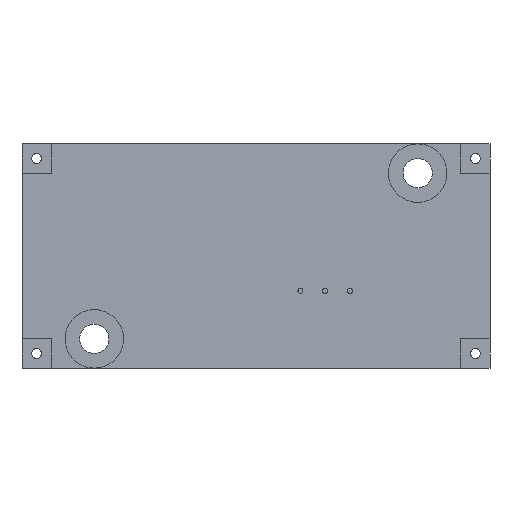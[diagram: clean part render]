
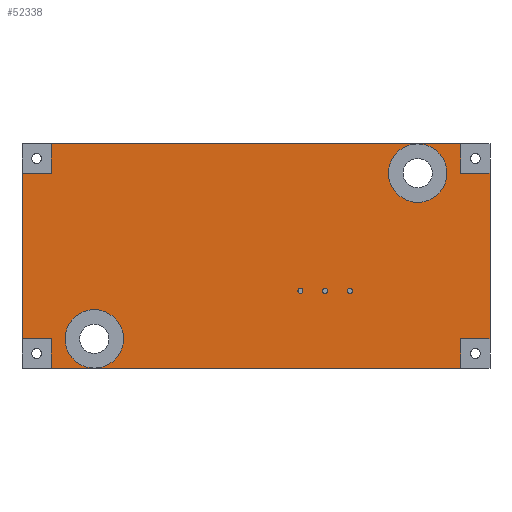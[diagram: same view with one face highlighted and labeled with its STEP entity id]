
A CAD part, front view. The second image highlights one B-rep face of the part: STEP entity #52338.
In plain terms, the highlighted planar face has unit normal (0, -1, 0).
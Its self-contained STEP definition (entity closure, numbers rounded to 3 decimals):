
#352 = DIRECTION ( 'NONE',  ( 0., 0., 1. ) ) ;
#515 = CARTESIAN_POINT ( 'NONE',  ( -16.588, 0., -8.5 ) ) ;
#536 = ORIENTED_EDGE ( 'NONE', *, *, #25424, .F. ) ;
#894 = DIRECTION ( 'NONE',  ( 0., 0., -1. ) ) ;
#1457 = AXIS2_PLACEMENT_3D ( 'NONE', #17224, #2960, #56150 ) ;
#2813 = CIRCLE ( 'NONE', #15712, 3. ) ;
#2960 = DIRECTION ( 'NONE',  ( 0., -1., 0. ) ) ;
#2967 = CARTESIAN_POINT ( 'NONE',  ( -21., 0., -8.5 ) ) ;
#3930 = VECTOR ( 'NONE', #39158, 1000. ) ;
#4060 = LINE ( 'NONE', #22946, #12092 ) ;
#4763 = CARTESIAN_POINT ( 'NONE',  ( -21., 0., -8.5 ) ) ;
#4941 = DIRECTION ( 'NONE',  ( 0., -1., 0. ) ) ;
#5391 = CARTESIAN_POINT ( 'NONE',  ( 24., 0., 11.5 ) ) ;
#5677 = CARTESIAN_POINT ( 'NONE',  ( 24., 0., 11.5 ) ) ;
#5678 = LINE ( 'NONE', #4763, #23433 ) ;
#5903 = CARTESIAN_POINT ( 'NONE',  ( -21., 0., -11.5 ) ) ;
#6158 = ORIENTED_EDGE ( 'NONE', *, *, #54302, .F. ) ;
#6502 = CARTESIAN_POINT ( 'NONE',  ( 24., 0., -11.5 ) ) ;
#6796 = ORIENTED_EDGE ( 'NONE', *, *, #46232, .F. ) ;
#6863 = CARTESIAN_POINT ( 'NONE',  ( 16.588, 0., 11.5 ) ) ;
#9029 = CARTESIAN_POINT ( 'NONE',  ( 21., 0., -8.5 ) ) ;
#9166 = EDGE_CURVE ( 'NONE', #51880, #58823, #40997, .T. ) ;
#9451 = VECTOR ( 'NONE', #34675, 1000. ) ;
#10301 = ORIENTED_EDGE ( 'NONE', *, *, #34247, .F. ) ;
#11340 = CARTESIAN_POINT ( 'NONE',  ( 21., 0., 8.5 ) ) ;
#11828 = CARTESIAN_POINT ( 'NONE',  ( 21., 0., 8.5 ) ) ;
#12092 = VECTOR ( 'NONE', #46128, 1000. ) ;
#12101 = CARTESIAN_POINT ( 'NONE',  ( 21., 0., 11.5 ) ) ;
#12127 = ORIENTED_EDGE ( 'NONE', *, *, #28804, .F. ) ;
#12494 = ORIENTED_EDGE ( 'NONE', *, *, #9166, .F. ) ;
#13324 = ORIENTED_EDGE ( 'NONE', *, *, #22241, .F. ) ;
#14040 = DIRECTION ( 'NONE',  ( 0., 0., 1. ) ) ;
#14530 = ORIENTED_EDGE ( 'NONE', *, *, #54132, .F. ) ;
#15293 = DIRECTION ( 'NONE',  ( -1., 0., 0. ) ) ;
#15712 = AXIS2_PLACEMENT_3D ( 'NONE', #18855, #38360, #28455 ) ;
#15938 = CARTESIAN_POINT ( 'NONE',  ( 24., 0., -11.5 ) ) ;
#16726 = VERTEX_POINT ( 'NONE', #41681 ) ;
#17073 = LINE ( 'NONE', #11828, #22543 ) ;
#17224 = CARTESIAN_POINT ( 'NONE',  ( -16.588, 0., -8.5 ) ) ;
#18330 = LINE ( 'NONE', #42737, #21364 ) ;
#18855 = CARTESIAN_POINT ( 'NONE',  ( 16.588, 0., 8.5 ) ) ;
#19085 = ORIENTED_EDGE ( 'NONE', *, *, #23486, .F. ) ;
#20255 = CARTESIAN_POINT ( 'NONE',  ( 21., 0., -8.5 ) ) ;
#20536 = CARTESIAN_POINT ( 'NONE',  ( -24., 0., 8.5 ) ) ;
#20744 = VERTEX_POINT ( 'NONE', #22207 ) ;
#21038 = VECTOR ( 'NONE', #27289, 1000. ) ;
#21364 = VECTOR ( 'NONE', #47076, 1000. ) ;
#21793 = AXIS2_PLACEMENT_3D ( 'NONE', #515, #47859, #24974 ) ;
#22207 = CARTESIAN_POINT ( 'NONE',  ( 21., 0., -8.5 ) ) ;
#22241 = EDGE_CURVE ( 'NONE', #16726, #20744, #55427, .T. ) ;
#22543 = VECTOR ( 'NONE', #54806, 1000. ) ;
#22946 = CARTESIAN_POINT ( 'NONE',  ( -21., 0., 8.5 ) ) ;
#23026 = LINE ( 'NONE', #60125, #56296 ) ;
#23433 = VECTOR ( 'NONE', #15293, 1000. ) ;
#23486 = EDGE_CURVE ( 'NONE', #48765, #16726, #52741, .T. ) ;
#23665 = DIRECTION ( 'NONE',  ( 1., 0., 0. ) ) ;
#23895 = CARTESIAN_POINT ( 'NONE',  ( -24., 0., 11.5 ) ) ;
#24551 = CARTESIAN_POINT ( 'NONE',  ( 21., 0., -11.5 ) ) ;
#24974 = DIRECTION ( 'NONE',  ( 0., 0., -1. ) ) ;
#25059 = VECTOR ( 'NONE', #352, 1000. ) ;
#25424 = EDGE_CURVE ( 'NONE', #35169, #51438, #47772, .T. ) ;
#25687 = EDGE_CURVE ( 'NONE', #34081, #59460, #27919, .T. ) ;
#26622 = CARTESIAN_POINT ( 'NONE',  ( -21., 0., 11.5 ) ) ;
#26820 = LINE ( 'NONE', #2967, #40688 ) ;
#27289 = DIRECTION ( 'NONE',  ( -1., 0., 0. ) ) ;
#27919 = LINE ( 'NONE', #23895, #25059 ) ;
#28455 = DIRECTION ( 'NONE',  ( 0., 0., -1. ) ) ;
#28804 = EDGE_CURVE ( 'NONE', #58823, #35039, #34056, .T. ) ;
#30418 = ORIENTED_EDGE ( 'NONE', *, *, #51480, .F. ) ;
#31311 = VECTOR ( 'NONE', #43780, 1000. ) ;
#31432 = ORIENTED_EDGE ( 'NONE', *, *, #59859, .F. ) ;
#31580 = VERTEX_POINT ( 'NONE', #12101 ) ;
#32504 = EDGE_CURVE ( 'NONE', #59460, #40086, #18330, .T. ) ;
#32663 = CIRCLE ( 'NONE', #21793, 3. ) ;
#32670 = ORIENTED_EDGE ( 'NONE', *, *, #25687, .F. ) ;
#32917 = DIRECTION ( 'NONE',  ( 1., 0., 0. ) ) ;
#33397 = EDGE_CURVE ( 'NONE', #51438, #59257, #2813, .T. ) ;
#34056 = LINE ( 'NONE', #6502, #9451 ) ;
#34081 = VERTEX_POINT ( 'NONE', #35929 ) ;
#34247 = EDGE_CURVE ( 'NONE', #59257, #51438, #51290, .T. ) ;
#34407 = ORIENTED_EDGE ( 'NONE', *, *, #39048, .F. ) ;
#34506 = LINE ( 'NONE', #15938, #39576 ) ;
#34675 = DIRECTION ( 'NONE',  ( -1., 0., 0. ) ) ;
#34823 = VECTOR ( 'NONE', #53041, 1000. ) ;
#35039 = VERTEX_POINT ( 'NONE', #5903 ) ;
#35169 = VERTEX_POINT ( 'NONE', #26622 ) ;
#35494 = AXIS2_PLACEMENT_3D ( 'NONE', #43275, #4941, #894 ) ;
#35929 = CARTESIAN_POINT ( 'NONE',  ( -24., 0., -8.5 ) ) ;
#38141 = CARTESIAN_POINT ( 'NONE',  ( 21., 0., 8.5 ) ) ;
#38360 = DIRECTION ( 'NONE',  ( 0., -1., 0. ) ) ;
#39048 = EDGE_CURVE ( 'NONE', #35039, #40451, #26820, .T. ) ;
#39158 = DIRECTION ( 'NONE',  ( 0., 0., -1. ) ) ;
#39576 = VECTOR ( 'NONE', #53372, 1000. ) ;
#40086 = VERTEX_POINT ( 'NONE', #61031 ) ;
#40451 = VERTEX_POINT ( 'NONE', #42941 ) ;
#40688 = VECTOR ( 'NONE', #44739, 1000. ) ;
#40997 = CIRCLE ( 'NONE', #1457, 3. ) ;
#41681 = CARTESIAN_POINT ( 'NONE',  ( 24., 0., -8.5 ) ) ;
#42171 = PLANE ( 'NONE',  #47311 ) ;
#42737 = CARTESIAN_POINT ( 'NONE',  ( -21., 0., 8.5 ) ) ;
#42941 = CARTESIAN_POINT ( 'NONE',  ( -21., 0., -8.5 ) ) ;
#43275 = CARTESIAN_POINT ( 'NONE',  ( 16.588, 0., 8.5 ) ) ;
#43302 = ORIENTED_EDGE ( 'NONE', *, *, #55126, .F. ) ;
#43737 = LINE ( 'NONE', #20255, #3930 ) ;
#43780 = DIRECTION ( 'NONE',  ( 0., 0., -1. ) ) ;
#44739 = DIRECTION ( 'NONE',  ( 0., 0., 1. ) ) ;
#46128 = DIRECTION ( 'NONE',  ( 0., 0., 1. ) ) ;
#46232 = EDGE_CURVE ( 'NONE', #31580, #53559, #54325, .T. ) ;
#46493 = DIRECTION ( 'NONE',  ( 0., 1., 0. ) ) ;
#46651 = CARTESIAN_POINT ( 'NONE',  ( -16.588, 0., -5.5 ) ) ;
#47076 = DIRECTION ( 'NONE',  ( 1., 0., 0. ) ) ;
#47311 = AXIS2_PLACEMENT_3D ( 'NONE', #56388, #46493, #14040 ) ;
#47725 = ORIENTED_EDGE ( 'NONE', *, *, #49281, .F. ) ;
#47772 = LINE ( 'NONE', #5391, #51727 ) ;
#47859 = DIRECTION ( 'NONE',  ( 0., -1., 0. ) ) ;
#48466 = VERTEX_POINT ( 'NONE', #24551 ) ;
#48765 = VERTEX_POINT ( 'NONE', #53504 ) ;
#49281 = EDGE_CURVE ( 'NONE', #40451, #34081, #5678, .T. ) ;
#49539 = ORIENTED_EDGE ( 'NONE', *, *, #32504, .F. ) ;
#50910 = CARTESIAN_POINT ( 'NONE',  ( 16.588, 0., 5.5 ) ) ;
#51290 = CIRCLE ( 'NONE', #35494, 3. ) ;
#51438 = VERTEX_POINT ( 'NONE', #6863 ) ;
#51480 = EDGE_CURVE ( 'NONE', #53559, #48765, #17073, .T. ) ;
#51727 = VECTOR ( 'NONE', #23665, 1000. ) ;
#51880 = VERTEX_POINT ( 'NONE', #46651 ) ;
#52338 = ADVANCED_FACE ( 'NONE', ( #56082 ), #42171, .F. ) ;
#52507 = ORIENTED_EDGE ( 'NONE', *, *, #57474, .F. ) ;
#52562 = EDGE_LOOP ( 'NONE', ( #31432, #10301, #58510, #536, #52507, #49539, #32670, #47725, #34407, #12127, #12494, #43302, #14530, #6158, #13324, #19085, #30418, #6796 ) ) ;
#52741 = LINE ( 'NONE', #5677, #34823 ) ;
#53041 = DIRECTION ( 'NONE',  ( 0., 0., -1. ) ) ;
#53372 = DIRECTION ( 'NONE',  ( -1., 0., 0. ) ) ;
#53504 = CARTESIAN_POINT ( 'NONE',  ( 24., 0., 8.5 ) ) ;
#53559 = VERTEX_POINT ( 'NONE', #38141 ) ;
#54132 = EDGE_CURVE ( 'NONE', #48466, #58823, #34506, .T. ) ;
#54302 = EDGE_CURVE ( 'NONE', #20744, #48466, #43737, .T. ) ;
#54325 = LINE ( 'NONE', #11340, #31311 ) ;
#54806 = DIRECTION ( 'NONE',  ( 1., 0., 0. ) ) ;
#55126 = EDGE_CURVE ( 'NONE', #58823, #51880, #32663, .T. ) ;
#55427 = LINE ( 'NONE', #9029, #21038 ) ;
#56082 = FACE_OUTER_BOUND ( 'NONE', #52562, .T. ) ;
#56150 = DIRECTION ( 'NONE',  ( 0., 0., -1. ) ) ;
#56296 = VECTOR ( 'NONE', #32917, 1000. ) ;
#56388 = CARTESIAN_POINT ( 'NONE',  ( 0., 0., 0. ) ) ;
#56874 = CARTESIAN_POINT ( 'NONE',  ( -16.588, 0., -11.5 ) ) ;
#57474 = EDGE_CURVE ( 'NONE', #40086, #35169, #4060, .T. ) ;
#58510 = ORIENTED_EDGE ( 'NONE', *, *, #33397, .F. ) ;
#58823 = VERTEX_POINT ( 'NONE', #56874 ) ;
#59257 = VERTEX_POINT ( 'NONE', #50910 ) ;
#59460 = VERTEX_POINT ( 'NONE', #20536 ) ;
#59859 = EDGE_CURVE ( 'NONE', #51438, #31580, #23026, .T. ) ;
#60125 = CARTESIAN_POINT ( 'NONE',  ( 24., 0., 11.5 ) ) ;
#61031 = CARTESIAN_POINT ( 'NONE',  ( -21., 0., 8.5 ) ) ;
